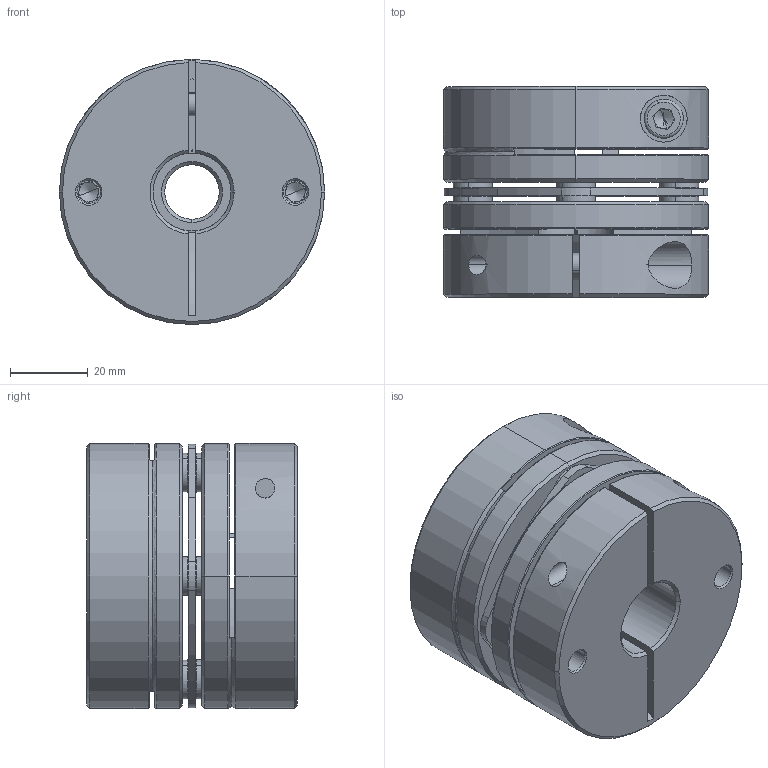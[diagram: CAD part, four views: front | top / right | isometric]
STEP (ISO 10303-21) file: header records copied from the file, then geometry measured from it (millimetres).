
FILE_DESCRIPTION (( 'STEP AP203' ), '1' );
FILE_NAME ('LD1-D68-14-20.STEP', '2021-10-26T07:43:19', ( '' ), ( '' ), 'SwSTEP 2.0', 'SolidWorks 2018', '' );
FILE_SCHEMA (( 'CONFIG_CONTROL_DESIGN' ));
Length unit declared in the file: millimetre
Products named in the file (2): LD1-D68-14-20; 錨璃101^LD1-D68
Assembly tree (1 placements, depth 2):
  LD1-D68-14-20
    錨璃101^LD1-D68
Bounding box: 68 x 54 x 68 mm (x, y, z)
Volume: 154629.6 mm3; surface area: 47162.8 mm2
Topology: 1 solids, 15 shells, 447 faces, 1075 edges, 660 vertices
Faces by surface type: cylinder 163, plane 140, cone 122, torus 22
Entity records: 13615 total; most frequent: CARTESIAN_POINT 2636, DIRECTION 2463, ORIENTED_EDGE 2118, EDGE_CURVE 1059, AXIS2_PLACEMENT_3D 999, VERTEX_POINT 660, CIRCLE 548, EDGE_LOOP 527
